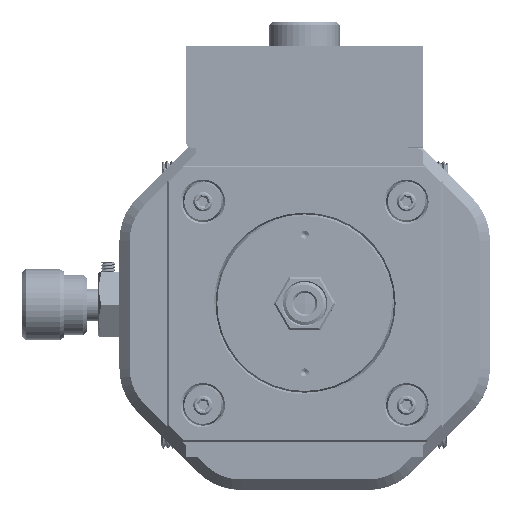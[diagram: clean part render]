
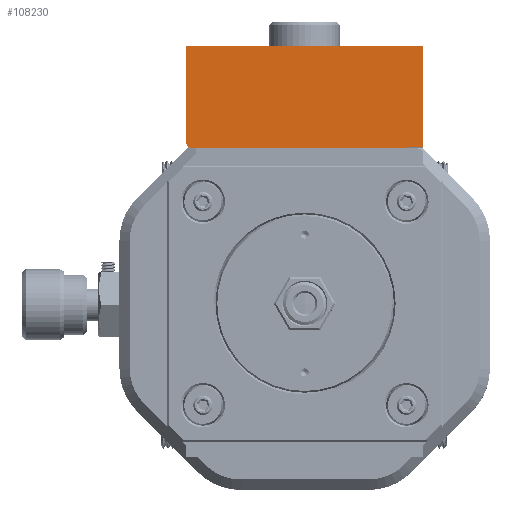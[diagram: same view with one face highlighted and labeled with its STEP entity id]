
A CAD part, top view. The second image highlights one B-rep face of the part: STEP entity #108230.
In plain terms, the highlighted planar face has unit normal (0, 0, 1).
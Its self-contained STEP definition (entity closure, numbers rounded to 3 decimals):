
#1575 = DIRECTION ( 'NONE',  ( -1., 0., 0. ) ) ;
#2196 = EDGE_CURVE ( 'NONE', #61843, #37159, #77117, .T. ) ;
#2988 = DIRECTION ( 'NONE',  ( 0., 0., 1. ) ) ;
#5679 = FACE_OUTER_BOUND ( 'NONE', #10398, .T. ) ;
#10319 = DIRECTION ( 'NONE',  ( 0., -1., 0. ) ) ;
#10398 = EDGE_LOOP ( 'NONE', ( #40561, #41533, #18187, #34406, #23695 ) ) ;
#11270 = CARTESIAN_POINT ( 'NONE',  ( 61.405, 30.995, 15. ) ) ;
#12783 = CARTESIAN_POINT ( 'NONE',  ( 0., 0., 15. ) ) ;
#16131 = AXIS2_PLACEMENT_3D ( 'NONE', #12783, #111387, #86078 ) ;
#16324 = CARTESIAN_POINT ( 'NONE',  ( 27.405, 15.995, 15. ) ) ;
#18187 = ORIENTED_EDGE ( 'NONE', *, *, #105950, .T. ) ;
#20324 = VECTOR ( 'NONE', #10319, 1000. ) ;
#22704 = PLANE ( 'NONE',  #16131 ) ;
#23588 = CARTESIAN_POINT ( 'NONE',  ( 26.405, 16.995, 15. ) ) ;
#23695 = ORIENTED_EDGE ( 'NONE', *, *, #45181, .T. ) ;
#23718 = VERTEX_POINT ( 'NONE', #65243 ) ;
#26508 = AXIS2_PLACEMENT_3D ( 'NONE', #112700, #2988, #32277 ) ;
#27371 = CARTESIAN_POINT ( 'NONE',  ( 26.405, 15.995, 15. ) ) ;
#32277 = DIRECTION ( 'NONE',  ( 1., 0., 0. ) ) ;
#34406 = ORIENTED_EDGE ( 'NONE', *, *, #114320, .T. ) ;
#36165 = DIRECTION ( 'NONE',  ( 1., 0., 0. ) ) ;
#37159 = VERTEX_POINT ( 'NONE', #16324 ) ;
#37945 = CARTESIAN_POINT ( 'NONE',  ( 26.405, 30.995, 15. ) ) ;
#40561 = ORIENTED_EDGE ( 'NONE', *, *, #81611, .T. ) ;
#41533 = ORIENTED_EDGE ( 'NONE', *, *, #2196, .T. ) ;
#45181 = EDGE_CURVE ( 'NONE', #102273, #79943, #99570, .T. ) ;
#60787 = CARTESIAN_POINT ( 'NONE',  ( 61.405, 30.995, 15. ) ) ;
#61843 = VERTEX_POINT ( 'NONE', #23588 ) ;
#65243 = CARTESIAN_POINT ( 'NONE',  ( 61.405, 15.995, 15. ) ) ;
#65270 = CARTESIAN_POINT ( 'NONE',  ( 26.405, 30.995, 15. ) ) ;
#71099 = VECTOR ( 'NONE', #82842, 1000. ) ;
#71709 = LINE ( 'NONE', #11270, #71099 ) ;
#73091 = LINE ( 'NONE', #106723, #20324 ) ;
#77117 = CIRCLE ( 'NONE', #26508, 1. ) ;
#79943 = VERTEX_POINT ( 'NONE', #65270 ) ;
#81611 = EDGE_CURVE ( 'NONE', #79943, #61843, #73091, .T. ) ;
#81931 = LINE ( 'NONE', #27371, #107735 ) ;
#82842 = DIRECTION ( 'NONE',  ( 0., 1., 0. ) ) ;
#86078 = DIRECTION ( 'NONE',  ( 1., 0., 0. ) ) ;
#89103 = VECTOR ( 'NONE', #1575, 1000. ) ;
#99570 = LINE ( 'NONE', #37945, #89103 ) ;
#102273 = VERTEX_POINT ( 'NONE', #60787 ) ;
#105950 = EDGE_CURVE ( 'NONE', #37159, #23718, #81931, .T. ) ;
#106723 = CARTESIAN_POINT ( 'NONE',  ( 26.405, 30.995, 15. ) ) ;
#107735 = VECTOR ( 'NONE', #36165, 1000. ) ;
#108230 = ADVANCED_FACE ( 'NONE', ( #5679 ), #22704, .T. ) ;
#111387 = DIRECTION ( 'NONE',  ( 0., 0., 1. ) ) ;
#112700 = CARTESIAN_POINT ( 'NONE',  ( 27.405, 16.995, 15. ) ) ;
#114320 = EDGE_CURVE ( 'NONE', #23718, #102273, #71709, .T. ) ;
